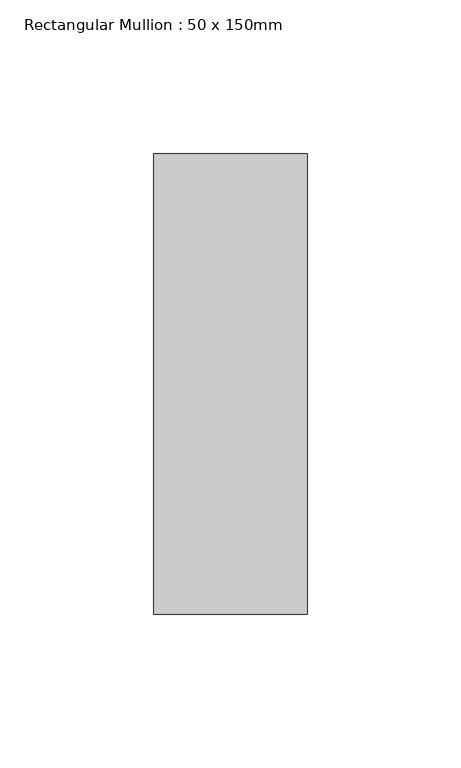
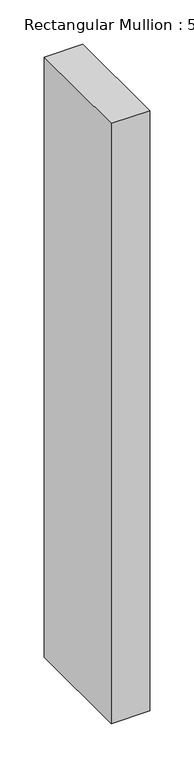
"""IFC4 building model written with IfcOpenShell, lengths in millimetres: member geometry, Rectangular Mullion : 50 x 150mm."""

from ifc_helpers import new_model, si_unit, frame, origin, place, context, project, spatial, polyline, outline, extrude, source, transform, mapped, element, save


def rectangular_mullion_50_x_150mm_fc863719(model_context):
    return source(origin(), model_context, "Body", "SweptSolid", [
        extrude(outline(polyline([(0.0, 75.0), (0.0, -75.0), (-50.0, -75.0), (-50.0, 75.0), (0.0, 75.0)])), frame((0.0, 0.0, -824.5), z_axis=(0.0, 0.0, 1.0), x_axis=(1.0, 0.0, 0.0)), (0.0, 0.0, 1.0), 824.5),
    ])


if __name__ == "__main__":
    model = new_model("IFC4")
    model_context = context("Model", 3, world=origin())
    ifc_project = project(units=[si_unit("LENGTHUNIT", "METRE", prefix="MILLI")], contexts=[model_context])
    site = spatial("IfcSite", under=ifc_project)
    building = spatial("IfcBuilding", under=site)
    placement = place(None, origin())
    rectangular_mullion_50_x_150mm_shape = rectangular_mullion_50_x_150mm_fc863719(model_context)
    element("IfcMember", 1, ObjectType="Rectangular Mullion : 50 x 150mm", at=placement, inside=building, context=model_context, shape_type="MappedRepresentation", body=[
        mapped(rectangular_mullion_50_x_150mm_shape, transform((0.0, 0.0, 0.0), x_axis=(1.0, 0.0, 0.0), y_axis=(0.0, 1.0, 0.0), z_axis=(0.0, 0.0, 1.0))),
    ])
    save(model, "model.ifc")
